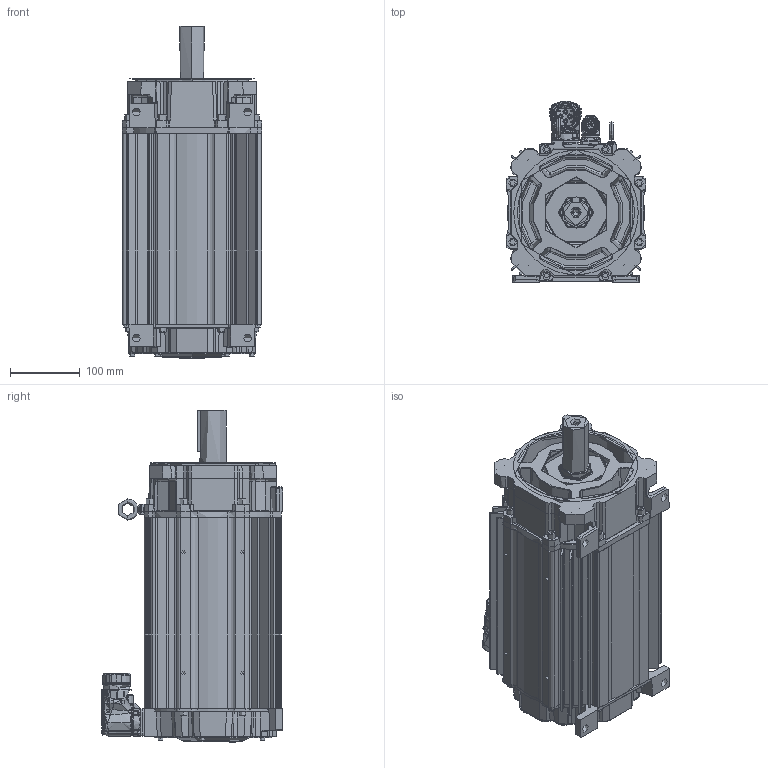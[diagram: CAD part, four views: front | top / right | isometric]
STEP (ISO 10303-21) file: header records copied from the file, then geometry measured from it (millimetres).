
FILE_DESCRIPTION((''),'2;1');
FILE_NAME('10001410822_ASM','2020-01-16T09:12:18',('VThimma'),('Rockwell Automation'),'CREO PARAMETRIC BY PTC INC, 2017380','CREO PARAMETRIC BY PTC INC, 2017380','');
FILE_SCHEMA(('CONFIG_CONTROL_DESIGN','SHAPE_APPEARANCE_LAYERS_GROUPS'));
Products named in the file (27): 10001365220; 10001238886_AF0; 10001298482_AF22; 10001284445_ASM; CH31X150; 10001406656_ASM; 10001334964; 10001398525_ASM; 10001257630_AF255; 10001300098_AF227; 10001284488_ASM; 10001586886; 0002-5005; 10000014325-2; 10000014331; 10000014332-460; 10000014330-460_ASM; 10000172464; PWR40CONN-BRK; PWR40BASE; 10000806125_ASM; 221404-Q12; 10000569218; 10001290343; 0011-2066; 10001609981; 10001410822_ASM
Assembly tree (53 placements, depth 4):
  10001410822_ASM
    10001406656_ASM
      10001365220
      10001284445_ASM
        10001238886_AF0
        10001298482_AF22
      CH31X150  x8
    10001398525_ASM
      10001334964
    10001284488_ASM
      10001257630_AF255
      10001300098_AF227
    10001586886  x8
    0002-5005  x2
    10000014330-460_ASM
      10000014325-2
      10000014331
      10000014332-460
    10000172464  x4
    10000806125_ASM
      PWR40CONN-BRK
      PWR40BASE
    221404-Q12  x10
    10000569218
    10001290343
    0011-2066
    10001609981
Bounding box: 200.45 x 260.05 x 476.79 mm (x, y, z)
Topology: 0 solids, 71 shells, 7395 faces, 19129 edges, 11892 vertices
Faces by surface type: cylinder 2181, plane 1765, bspline 1629, torus 918, cone 684, sphere 175, extrusion 42, revolution 1
Entity records: 380619 total; most frequent: CARTESIAN_POINT 149491, ORIENTED_EDGE 31615, DIRECTION 26526, PRESENTATION_STYLE_ASSIGNMENT 21990, STYLED_ITEM 21990, CURVE_STYLE 15919, EDGE_CURVE 15877, AXIS2_PLACEMENT_3D 10812
